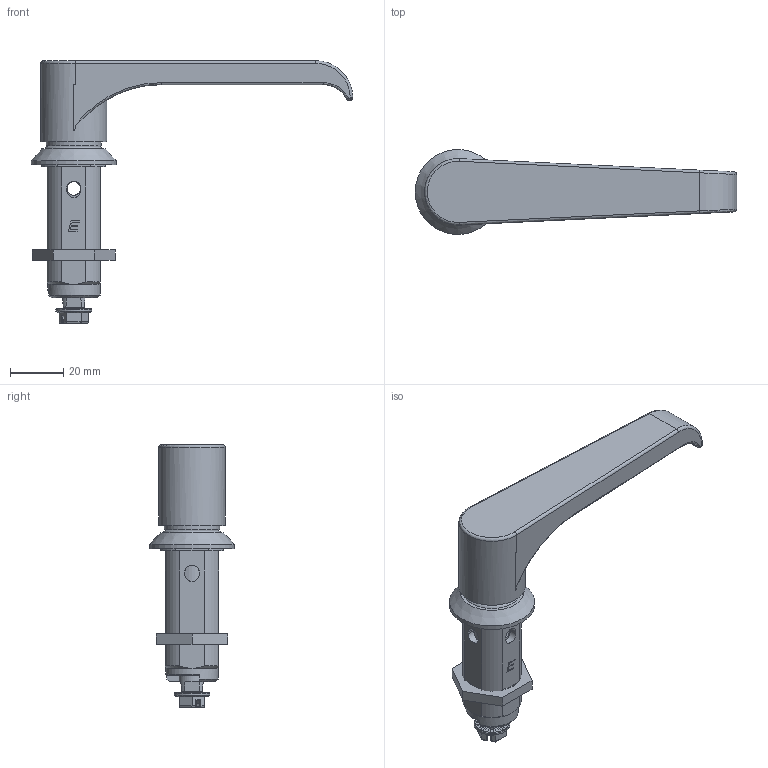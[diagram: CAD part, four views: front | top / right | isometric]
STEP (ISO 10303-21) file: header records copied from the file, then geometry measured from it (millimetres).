
FILE_DESCRIPTION((''),'2;1');
FILE_NAME('C:\Documents and Settings\Administrator\My Documents\Andys Backup Data\ANDY''S INVENTOR\INVENTOR LIBRARIES\MINITEC INVENTOR LIBRARIES\HANDLES LOCKS STOPS\A PACKED FILES\STEP FILES\21.1087_4 HANDLE 32 WITHOUT LOCK GRAY.stp','2010-06-25T13:42:45',('Administrator'),(''),'Autodesk Inventor 2009','Autodesk Inventor 2009','');
FILE_SCHEMA(('AUTOMOTIVE_DESIGN { 1 0 10303 214 1 1 1 1 }'));
Length unit declared in the file: millimetre
Products named in the file (8): 21.1087_4 HANDLE 32 WITHOUT LOCK GRAY; 1000-169 GRAY; 1000-210; DIN3771_15X3_5; 1000-23; 1000-02; 1000-166; 1000-277-07
Assembly tree (7 placements, depth 2):
  21.1087_4 HANDLE 32 WITHOUT LOCK GRAY
    1000-169 GRAY
    1000-210
    DIN3771_15X3_5
    1000-23
    1000-02
    1000-166
    1000-277-07
Bounding box: 121 x 32 x 98.85 mm (x, y, z)
Volume: 45412.7 mm3; surface area: 26083.2 mm2
Topology: 7 solids, 7 shells, 411 faces, 1057 edges, 668 vertices
Faces by surface type: plane 201, cylinder 152, bspline 31, torus 15, cone 8, sphere 4
Full cylindrical faces by diameter (mm): 5.1 x1, 5.5 x1, 6.2 x1, 9.9 x1, 10 x1, 11.8 x1, 12 x1, 12.8 x1, 13.5 x1, 14.8 x1, 15 x1, 16 x1, 19.8 x1, 20.8 x1, 21.5 x1, 22 x1, 25 x1, 32 x1
Entity records: 15834 total; most frequent: CARTESIAN_POINT 5628, ORIENTED_EDGE 2042, DIRECTION 2009, EDGE_CURVE 1021, AXIS2_PLACEMENT_3D 732, VERTEX_POINT 659, VECTOR 545, LINE 545
